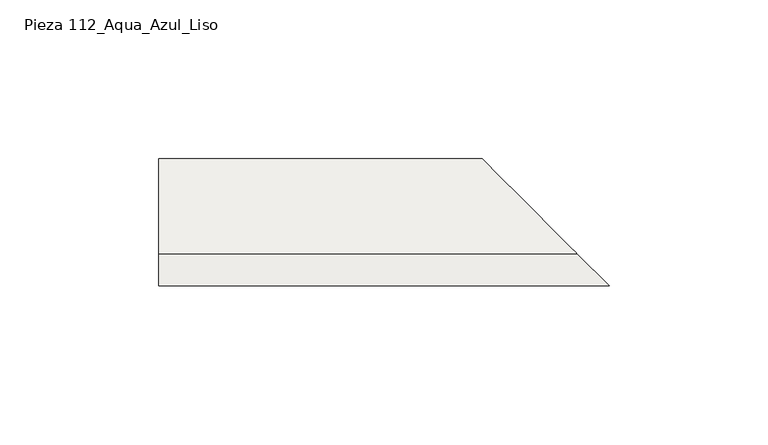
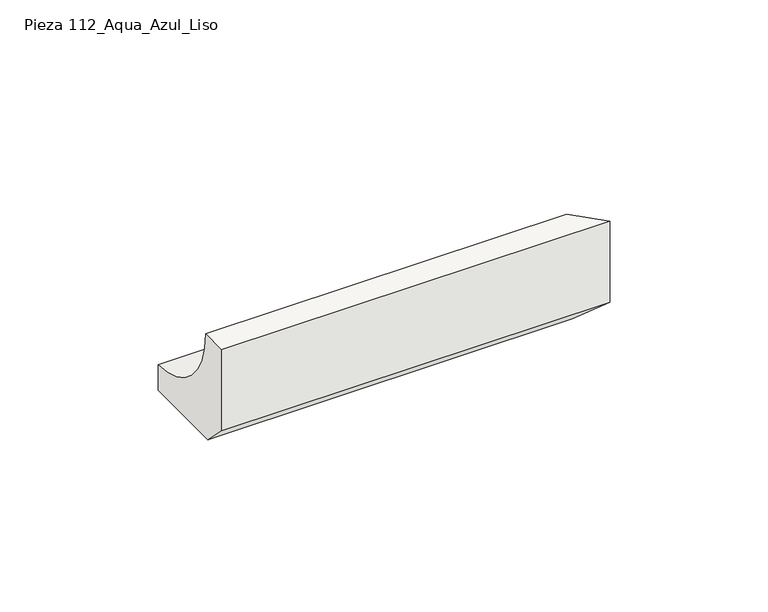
"""IFC4 building model written with IfcOpenShell, lengths in millimetres: slab geometry, ROSA GRES_112 (corte) : Pieza 112_Aqua_Azul_Liso."""

from ifc_helpers import new_model, si_unit, frame, origin, place, context, project, spatial, polyline, circle_curve, ellipse_curve, source, transform, mapped, element, save
from ifc_brep_helpers import plane_surface, revolved_surface, advanced_brep


def pieza_112_aqua_azul_liso_815341f7(model_context):
    return source(origin(), model_context, "Body", "AdvancedBrep", [
        advanced_brep(
        [(0.0, 0.0, 8.7114978), (0.0, 0.0, 40.0), (0.0, 9.9734114, 40.0), (0.0, 40.0, 9.9734114), (0.0, 40.0, 0.0), (0.0, 8.7114978, 0.0), (141.7, 0.0, 8.7114978), (141.7, 0.0, 40.0), (131.7265886, 9.9734114, 40.0), (101.7, 40.0, 9.9734114), (101.7, 40.0, 0.0), (132.9885022, 8.7114978, 0.0)],
        [
            (0, 1),
            (1, 2),
            (2, 3, circle_curve(frame((0.0, 39.9955547, 39.9955547), z_axis=(1.0, 0.0, 0.0), x_axis=(0.0, 1.0, 0.0)), 30.0221435)),
            (3, 4),
            (4, 5),
            (5, 0),
            (0, 6),
            (6, 7),
            (7, 1),
            (7, 8),
            (8, 2),
            (8, 9, ellipse_curve(frame((101.7044453, 39.9955547, 39.9955547), z_axis=(0.7071067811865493, 0.7071067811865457, 0.0), x_axis=(0.7071067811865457, -0.7071067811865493, 0.0)), 42.4577226, 30.0221435)),
            (9, 3),
            (9, 10),
            (10, 4),
            (10, 11),
            (11, 5),
            (11, 6),
        ],
        [
            plane_surface(frame((0.0, 0.0, 0.0), z_axis=(-1.0, 0.0, 0.0), x_axis=(0.0, 0.0, 1.0))),
            plane_surface(frame((0.0, 0.0, 8.7114978), z_axis=(0.0, -1.0, 0.0), x_axis=(1.0, 0.0, 0.0))),
            plane_surface(frame((0.0, 0.0, 40.0), z_axis=(0.0, 0.0, 1.0), x_axis=(1.0, 0.0, 0.0))),
            revolved_surface(polyline([(131.72658886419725, 70.0176982, 39.9955547), (0.0, 70.0176982, 39.9955547)]), (0.0, 39.9955547, 39.9955547), (1.0, 0.0, 0.0)),
            plane_surface(frame((0.0, 40.0, 9.9734114), z_axis=(0.0, 1.0, 0.0), x_axis=(1.0, 0.0, 0.0))),
            plane_surface(frame((0.0, 40.0, 0.0), z_axis=(0.0, 0.0, -1.0), x_axis=(1.0, 0.0, 0.0))),
            plane_surface(frame((0.0, 8.7114978, 0.0), z_axis=(0.0, -0.7071067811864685, -0.7071067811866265), x_axis=(1.0, 0.0, 0.0))),
            plane_surface(frame((101.2, 40.5, 104.9871832), z_axis=(0.7071067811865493, 0.7071067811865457, 0.0), x_axis=(0.0, 0.0, -1.0))),
        ],
        [
            (0, [[1, 2, 3, 4, 5, 6]]),
            (1, [[-1, 7, 8, 9]]),
            (2, [[-2, -9, 10, 11]]),
            (3, [[-3, -11, 12, 13]]),
            (4, [[-4, -13, 14, 15]]),
            (5, [[-5, -15, 16, 17]]),
            (6, [[-6, -17, 18, -7]]),
            (7, [[-8, -18, -16, -14, -12, -10]]),
        ],
    ),
    ])


if __name__ == "__main__":
    model = new_model("IFC4")
    model_context = context("Model", 3, world=origin())
    ifc_project = project(units=[si_unit("LENGTHUNIT", "METRE", prefix="MILLI")], contexts=[model_context])
    site = spatial("IfcSite", under=ifc_project)
    building = spatial("IfcBuilding", under=site)
    placement = place(None, origin())
    pieza_112_aqua_azul_liso_shape = pieza_112_aqua_azul_liso_815341f7(model_context)
    element("IfcSlab", 1, ObjectType="ROSA GRES_112 (corte) : Pieza 112_Aqua_Azul_Liso", at=placement, inside=building, context=model_context, shape_type="MappedRepresentation", body=[
        mapped(pieza_112_aqua_azul_liso_shape, transform((0.0, 0.0, 0.0), x_axis=(1.0, 0.0, 0.0), y_axis=(0.0, 1.0, 0.0), z_axis=(0.0, 0.0, 1.0))),
    ])
    save(model, "model.ifc")
